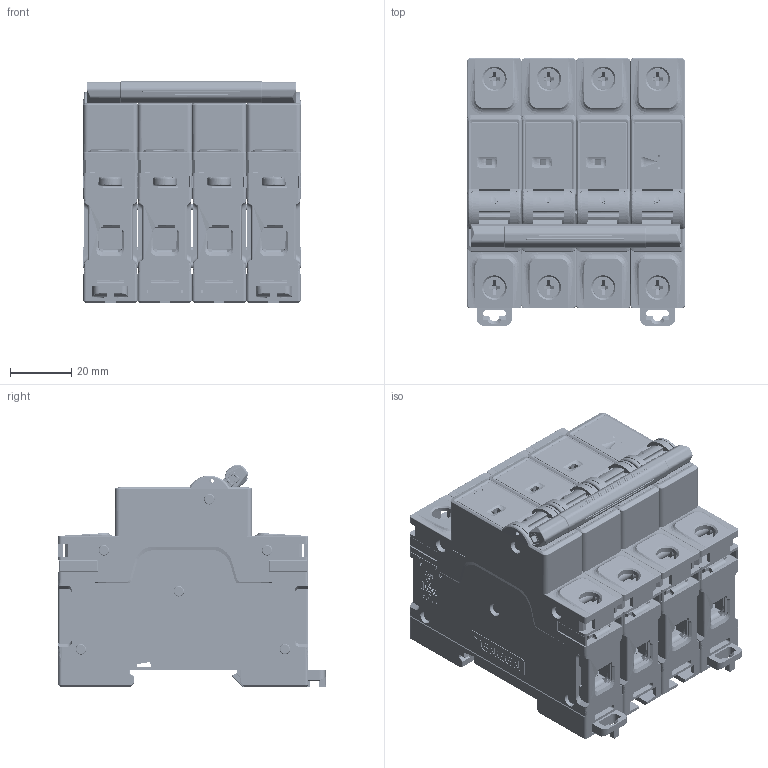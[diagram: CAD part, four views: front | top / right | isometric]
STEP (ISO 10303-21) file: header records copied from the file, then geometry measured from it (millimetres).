
FILE_DESCRIPTION (( 'STEP AP214' ), '1' );
FILE_NAME ('3D Model TGB3-63 4P.STEP', '2025-12-17T06:48:37', ( '' ), ( '' ), 'SwSTEP 2.0', 'SolidWorks 2024', '' );
FILE_SCHEMA (( 'AUTOMOTIVE_DESIGN' ));
Products named in the file (14): TENGEN_TGB3-63L_4P_1_9.stp; 3D Model TGB3-63 4P.stp; TENGEN_TGB3-63L_4P_1_10.stp; TENGEN_TGB3-63L_4P_1_AF0_ASM-0.stp; TENGEN_TGB3-63L_4P_1_6.stp; TENGEN_TGB3-63L_4P_1_8.stp; TENGEN_TGB3-63L_4P_1_2_AF0.stp; 3D Model TGB3-63 4P; TENGEN_TGB3-63L_4P_1_AF0_ASM.stp; TENGEN_TGB3-63L_4P_1_4.stp; TENGEN_TGB3-63L_4P_1_3_AF0.stp; TENGEN_TGB3-63L_4P_1_5.stp; TENGEN_TGB3-63L_4P_1_7.stp; TENGEN_TGB3-63L_4P_1_1_AF0.stp
Assembly tree (13 placements, depth 4):
  3D Model TGB3-63 4P
    3D Model TGB3-63 4P.stp
      TENGEN_TGB3-63L_4P_1_AF0_ASM.stp
        TENGEN_TGB3-63L_4P_1_1_AF0.stp
        TENGEN_TGB3-63L_4P_1_2_AF0.stp
        TENGEN_TGB3-63L_4P_1_3_AF0.stp
        TENGEN_TGB3-63L_4P_1_4.stp
        TENGEN_TGB3-63L_4P_1_5.stp
        TENGEN_TGB3-63L_4P_1_6.stp
        TENGEN_TGB3-63L_4P_1_7.stp
        TENGEN_TGB3-63L_4P_1_8.stp
        TENGEN_TGB3-63L_4P_1_9.stp
        TENGEN_TGB3-63L_4P_1_10.stp
        TENGEN_TGB3-63L_4P_1_AF0_ASM-0.stp
Bounding box: 71.2 x 87.35 x 72.8 mm (x, y, z)
Surface area: 177545.2 mm2
Topology: 10 solids, 23 shells, 23675 faces, 64446 edges, 40665 vertices
Faces by surface type: plane 14888, cylinder 5806, bspline 900, torus 869, sphere 774, cone 438
Entity records: 879810 total; most frequent: CARTESIAN_POINT 417824, ORIENTED_EDGE 127646, EDGE_CURVE 63850, B_SPLINE_CURVE_WITH_KNOTS 62552, DIRECTION 46490, VERTEX_POINT 40597, EDGE_LOOP 24539, ADVANCED_FACE 23657
